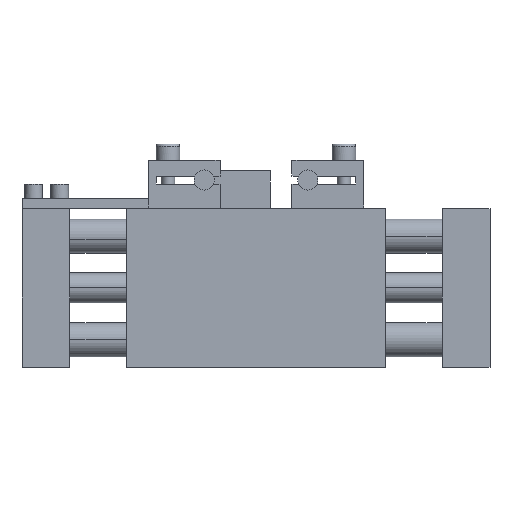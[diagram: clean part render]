
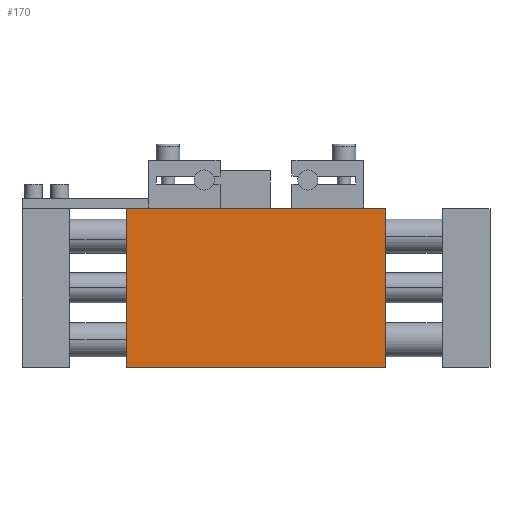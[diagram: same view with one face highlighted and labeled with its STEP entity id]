
A CAD part, front view. The second image highlights one B-rep face of the part: STEP entity #170.
In plain terms, the highlighted planar face has unit normal (0, -1, 0).
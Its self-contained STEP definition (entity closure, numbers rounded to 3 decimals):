
#170 = ADVANCED_FACE ( 'NONE', ( #4468 ), #3222, .F. ) ;
#281 = LINE ( 'NONE', #605, #3365 ) ;
#407 = LINE ( 'NONE', #3826, #1873 ) ;
#589 = CARTESIAN_POINT ( 'NONE',  ( 25.781, -20.637, -15.875 ) ) ;
#605 = CARTESIAN_POINT ( 'NONE',  ( 25.781, -20.637, 15.875 ) ) ;
#709 = ORIENTED_EDGE ( 'NONE', *, *, #3166, .F. ) ;
#885 = LINE ( 'NONE', #1672, #5601 ) ;
#1214 = DIRECTION ( 'NONE',  ( 0., 0., -1. ) ) ;
#1495 = EDGE_CURVE ( 'NONE', #7889, #1633, #885, .T. ) ;
#1633 = VERTEX_POINT ( 'NONE', #589 ) ;
#1672 = CARTESIAN_POINT ( 'NONE',  ( -25.781, -20.637, -15.875 ) ) ;
#1873 = VECTOR ( 'NONE', #1888, 1000. ) ;
#1888 = DIRECTION ( 'NONE',  ( 0., 0., -1. ) ) ;
#2183 = ORIENTED_EDGE ( 'NONE', *, *, #1495, .T. ) ;
#2537 = CARTESIAN_POINT ( 'NONE',  ( -25.781, -20.637, 15.875 ) ) ;
#2916 = DIRECTION ( 'NONE',  ( 1., 0., 0. ) ) ;
#2932 = AXIS2_PLACEMENT_3D ( 'NONE', #3244, #3293, #3828 ) ;
#3163 = DIRECTION ( 'NONE',  ( 1., 0., 0. ) ) ;
#3166 = EDGE_CURVE ( 'NONE', #7525, #1633, #281, .T. ) ;
#3222 = PLANE ( 'NONE',  #2932 ) ;
#3244 = CARTESIAN_POINT ( 'NONE',  ( -25.781, -20.637, 15.875 ) ) ;
#3293 = DIRECTION ( 'NONE',  ( 0., 1., 0. ) ) ;
#3365 = VECTOR ( 'NONE', #1214, 1000. ) ;
#3683 = ORIENTED_EDGE ( 'NONE', *, *, #5627, .F. ) ;
#3826 = CARTESIAN_POINT ( 'NONE',  ( -25.781, -20.637, 15.875 ) ) ;
#3828 = DIRECTION ( 'NONE',  ( 0., 0., 1. ) ) ;
#4018 = VERTEX_POINT ( 'NONE', #8007 ) ;
#4468 = FACE_OUTER_BOUND ( 'NONE', #5734, .T. ) ;
#4958 = VECTOR ( 'NONE', #3163, 1000. ) ;
#5158 = LINE ( 'NONE', #2537, #4958 ) ;
#5601 = VECTOR ( 'NONE', #2916, 1000. ) ;
#5627 = EDGE_CURVE ( 'NONE', #4018, #7525, #5158, .T. ) ;
#5734 = EDGE_LOOP ( 'NONE', ( #2183, #709, #3683, #6956 ) ) ;
#6041 = CARTESIAN_POINT ( 'NONE',  ( -25.781, -20.637, -15.875 ) ) ;
#6623 = EDGE_CURVE ( 'NONE', #4018, #7889, #407, .T. ) ;
#6956 = ORIENTED_EDGE ( 'NONE', *, *, #6623, .T. ) ;
#7284 = CARTESIAN_POINT ( 'NONE',  ( 25.781, -20.637, 15.875 ) ) ;
#7525 = VERTEX_POINT ( 'NONE', #7284 ) ;
#7889 = VERTEX_POINT ( 'NONE', #6041 ) ;
#8007 = CARTESIAN_POINT ( 'NONE',  ( -25.781, -20.637, 15.875 ) ) ;
